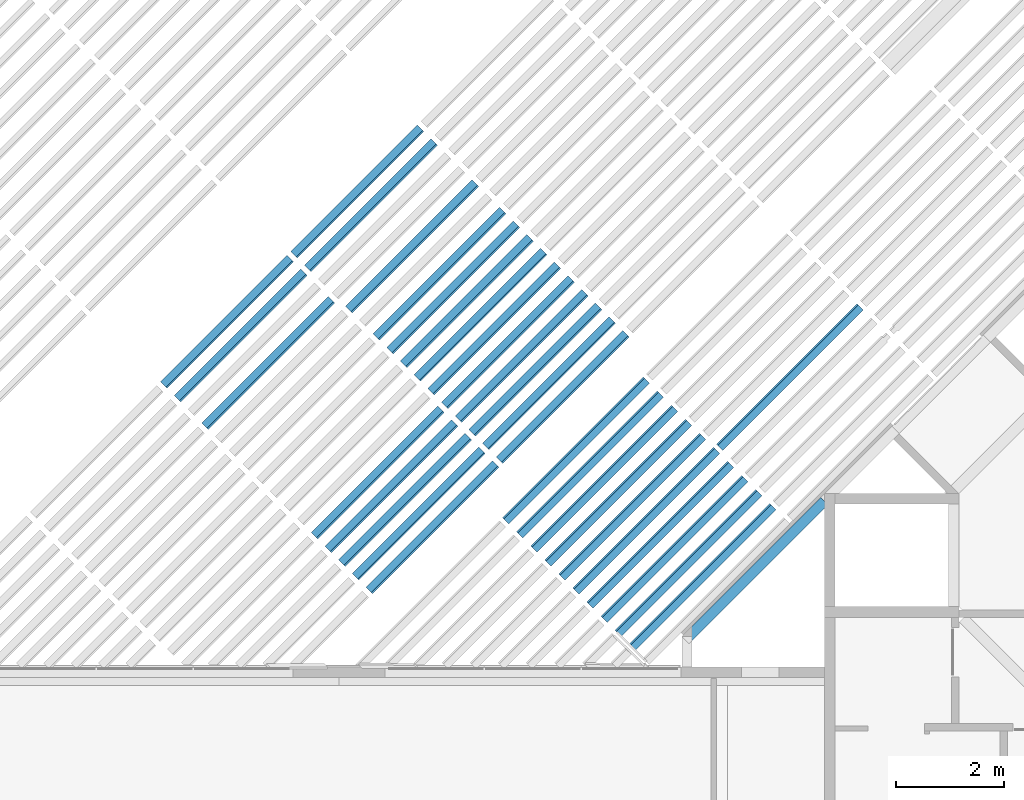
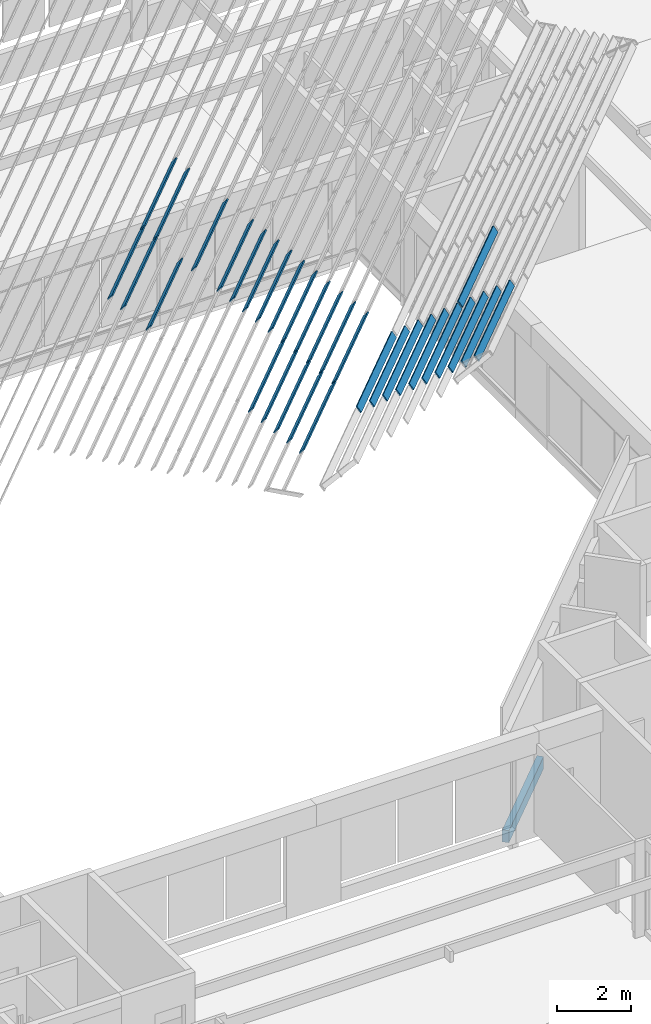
# One storey, part 5 of 37: 33 beams.
"""IFC4X3_ADD2 building model written with IfcOpenShell, lengths in millimetres."""

from ifc_helpers import new_model, si_unit, direction, frame, frame_2d, origin_with_axes, origin_2d_with_axis, place, context, subcontext, project, spatial, rectangle, extrude, source, transform, mapped, material, type_object, type_shapes, element, save


model = new_model("IFC4X3_ADD2")

# Units and contexts
model_context = context("Model", 3, precision=1e-05, world=origin_with_axes(), true_north=direction((0.0, 1.0)))
body_context = subcontext(model_context, "Body", "Model", "MODEL_VIEW")
ifc_project = project(units=[si_unit("LENGTHUNIT", "METRE", prefix="MILLI"), si_unit("AREAUNIT", "SQUARE_METRE"), si_unit("VOLUMEUNIT", "CUBIC_METRE"), si_unit("PLANEANGLEUNIT", "RADIAN"), si_unit("TIMEUNIT", "SECOND"), si_unit("MASSUNIT", "GRAM")], contexts=[model_context])

# Site, building, storey
site_placement = place(None, origin_with_axes())
site = spatial("IfcSite", under=ifc_project, at=site_placement, Name="Site", CompositionType="ELEMENT")
building_placement = place(site_placement, origin_with_axes())
building = spatial("IfcBuilding", under=site, at=building_placement, Name="IFC Building Story")
storey_placement = place(building_placement, frame((0.0, 0.0, 3600.0), z_axis=(0.0, 0.0, 1.0), x_axis=(1.0, 0.0, 0.0)))
storey = spatial("IfcBuildingStorey", under=building, at=storey_placement, Name="010", Elevation=3600.0)

# Beams
ifc_material_1 = material(Name="GVH_i2_naaldhout_generiek")
beam_type_1 = type_object("IfcBeamType", Name="28_SF_hout_rechthoekig_40 x 230_305", PredefinedType="NOTDEFINED")
shared_shape_1 = source(origin_with_axes(), body_context, "Body", "SweptSolid", [
    extrude(rectangle(XDim=3315.44000000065, YDim=40.0000000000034, at=origin_2d_with_axis()), frame((-37.72367612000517, 0.0, -115.0), z_axis=(0.0, 0.0, 1.0), x_axis=(1.0, 0.0, 0.0)), (0.0, 0.0, 1.0), 229.999999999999),
])
type_shapes(beam_type_1, [shared_shape_1])
beam_1_placement = place(storey_placement, frame((-27394.6255278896, 15260.6731626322, 13865.1625326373), z_axis=(0.4307932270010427, -0.4307932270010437, 0.7929907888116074), x_axis=(-0.7071067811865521, -0.707106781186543, 0.0)))
element("IfcBeam", 1, at=beam_1_placement, inside=storey, type_object=beam_type_1, material=ifc_material_1, Name="28_SF_hout_rechthoekig:40 x 230", ObjectType="40 x 230", PredefinedType="BEAM", context=body_context, shape_type="MappedRepresentation", body=[
    mapped(shared_shape_1, transform((0.0, 0.0, 0.0))),
])
beam_type_2 = type_object("IfcBeamType", Name="28_SF_hout_rechthoekig_40 x 230_307", PredefinedType="NOTDEFINED")
shared_shape_2 = source(origin_with_axes(), body_context, "Body", "SweptSolid", [
    extrude(rectangle(XDim=3315.44000000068, YDim=40.0000000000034, at=origin_2d_with_axis()), frame((-37.72362505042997, 0.0, -115.0), z_axis=(0.0, 0.0, 1.0), x_axis=(1.0, 0.0, 0.0)), (0.0, 0.0, 1.0), 229.999999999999),
])
type_shapes(beam_type_2, [shared_shape_2])
beam_2_placement = place(storey_placement, frame((-27648.6358392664, 15514.683474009, 14141.1453644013), z_axis=(0.4307932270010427, -0.4307932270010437, 0.7929907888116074), x_axis=(-0.7071067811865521, -0.707106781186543, 0.0)))
element("IfcBeam", 2, at=beam_2_placement, inside=storey, type_object=beam_type_2, material=ifc_material_1, Name="28_SF_hout_rechthoekig:40 x 230", ObjectType="40 x 230", PredefinedType="BEAM", context=body_context, shape_type="MappedRepresentation", body=[
    mapped(shared_shape_2, transform((0.0, 0.0, 0.0))),
])
beam_type_3 = type_object("IfcBeamType", Name="28_SF_hout_rechthoekig_40 x 230_309", PredefinedType="NOTDEFINED")
shared_shape_3 = source(origin_with_axes(), body_context, "Body", "SweptSolid", [
    extrude(rectangle(XDim=3315.44000000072, YDim=40.0000000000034, at=origin_2d_with_axis()), frame((-37.72357398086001, 0.0, -115.0), z_axis=(0.0, 0.0, 1.0), x_axis=(1.0, 0.0, 0.0)), (0.0, 0.0, 1.0), 229.999999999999),
])
type_shapes(beam_type_3, [shared_shape_3])
beam_3_placement = place(storey_placement, frame((-27902.6461506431, 15768.6937853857, 14417.1281961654), z_axis=(0.4307932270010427, -0.4307932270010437, 0.7929907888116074), x_axis=(-0.7071067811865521, -0.707106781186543, 0.0)))
element("IfcBeam", 3, at=beam_3_placement, inside=storey, type_object=beam_type_3, material=ifc_material_1, Name="28_SF_hout_rechthoekig:40 x 230", ObjectType="40 x 230", PredefinedType="BEAM", context=body_context, shape_type="MappedRepresentation", body=[
    mapped(shared_shape_3, transform((0.0, 0.0, 0.0))),
])
beam_type_4 = type_object("IfcBeamType", Name="28_SF_hout_rechthoekig_40 x 230_311", PredefinedType="NOTDEFINED")
shared_shape_4 = source(origin_with_axes(), body_context, "Body", "SweptSolid", [
    extrude(rectangle(XDim=3315.44000000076, YDim=40.0000000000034, at=origin_2d_with_axis()), frame((-37.72352291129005, 0.0, -115.0), z_axis=(0.0, 0.0, 1.0), x_axis=(1.0, 0.0, 0.0)), (0.0, 0.0, 1.0), 229.999999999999),
])
type_shapes(beam_type_4, [shared_shape_4])
beam_4_placement = place(storey_placement, frame((-28156.6564620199, 16022.7040967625, 14693.1110279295), z_axis=(0.4307932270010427, -0.4307932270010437, 0.7929907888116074), x_axis=(-0.7071067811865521, -0.707106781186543, 0.0)))
element("IfcBeam", 4, at=beam_4_placement, inside=storey, type_object=beam_type_4, material=ifc_material_1, Name="28_SF_hout_rechthoekig:40 x 230", ObjectType="40 x 230", PredefinedType="BEAM", context=body_context, shape_type="MappedRepresentation", body=[
    mapped(shared_shape_4, transform((0.0, 0.0, 0.0))),
])
beam_type_5 = type_object("IfcBeamType", Name="28_SF_hout_rechthoekig_40 x 230_313", PredefinedType="NOTDEFINED")
shared_shape_5 = source(origin_with_axes(), body_context, "Body", "SweptSolid", [
    extrude(rectangle(XDim=3315.44000000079, YDim=40.0000000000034, at=origin_2d_with_axis()), frame((-37.72347184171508, 0.0, -115.0), z_axis=(0.0, 0.0, 1.0), x_axis=(1.0, 0.0, 0.0)), (0.0, 0.0, 1.0), 229.999999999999),
])
type_shapes(beam_type_5, [shared_shape_5])
beam_5_placement = place(storey_placement, frame((-28410.6667733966, 16276.7144081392, 14969.0938596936), z_axis=(0.4307932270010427, -0.4307932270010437, 0.7929907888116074), x_axis=(-0.7071067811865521, -0.707106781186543, 0.0)))
element("IfcBeam", 5, at=beam_5_placement, inside=storey, type_object=beam_type_5, material=ifc_material_1, Name="28_SF_hout_rechthoekig:40 x 230", ObjectType="40 x 230", PredefinedType="BEAM", context=body_context, shape_type="MappedRepresentation", body=[
    mapped(shared_shape_5, transform((0.0, 0.0, 0.0))),
])
beam_type_6 = type_object("IfcBeamType", Name="28_SF_hout_rechthoekig_40 x 230_329", PredefinedType="NOTDEFINED")
shared_shape_6 = source(origin_with_axes(), body_context, "Body", "SweptSolid", [
    extrude(rectangle(XDim=3315.44000000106, YDim=40.0000000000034, at=origin_2d_with_axis()), frame((-37.72306328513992, 0.0, -115.0), z_axis=(0.0, 0.0, 1.0), x_axis=(1.0, 0.0, 0.0)), (0.0, 0.0, 1.0), 229.999999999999),
])
type_shapes(beam_type_6, [shared_shape_6])
beam_6_placement = place(storey_placement, frame((-30442.7492644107, 18308.7968991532, 17176.9565138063), z_axis=(0.4307932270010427, -0.4307932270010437, 0.7929907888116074), x_axis=(-0.7071067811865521, -0.707106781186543, 0.0)))
element("IfcBeam", 6, at=beam_6_placement, inside=storey, type_object=beam_type_6, material=ifc_material_1, Name="28_SF_hout_rechthoekig:40 x 230", ObjectType="40 x 230", PredefinedType="BEAM", context=body_context, shape_type="MappedRepresentation", body=[
    mapped(shared_shape_6, transform((0.0, 0.0, 0.0))),
])
beam_type_7 = type_object("IfcBeamType", Name="28_SF_hout_rechthoekig_40 x 230_333", PredefinedType="NOTDEFINED")
shared_shape_7 = source(origin_with_axes(), body_context, "Body", "SweptSolid", [
    extrude(rectangle(XDim=3315.44000000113, YDim=40.0000000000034, at=origin_2d_with_axis()), frame((-37.72296114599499, 0.0, -115.0), z_axis=(0.0, 0.0, 1.0), x_axis=(1.0, 0.0, 0.0)), (0.0, 0.0, 1.0), 229.9999999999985),
])
type_shapes(beam_type_7, [shared_shape_7])
beam_7_placement = place(storey_placement, frame((-30950.7698871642, 18816.8175219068, 17728.9221773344), z_axis=(0.4307932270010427, -0.4307932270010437, 0.7929907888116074), x_axis=(-0.7071067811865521, -0.707106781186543, 0.0)))
element("IfcBeam", 7, at=beam_7_placement, inside=storey, type_object=beam_type_7, material=ifc_material_1, Name="28_SF_hout_rechthoekig:40 x 230", ObjectType="40 x 230", PredefinedType="BEAM", context=body_context, shape_type="MappedRepresentation", body=[
    mapped(shared_shape_7, transform((0.0, 0.0, 0.0))),
])
beam_type_8 = type_object("IfcBeamType", Name="28_SF_hout_rechthoekig_40 x 230_335", PredefinedType="NOTDEFINED")
shared_shape_8 = source(origin_with_axes(), body_context, "Body", "SweptSolid", [
    extrude(rectangle(XDim=3315.44000000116, YDim=40.0000000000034, at=origin_2d_with_axis()), frame((-37.72291007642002, 0.0, -115.0), z_axis=(0.0, 0.0, 1.0), x_axis=(1.0, 0.0, 0.0)), (0.0, 0.0, 1.0), 229.9999999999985),
])
type_shapes(beam_type_8, [shared_shape_8])
beam_8_placement = place(storey_placement, frame((-31204.7801985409, 19070.8278332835, 18004.9050090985), z_axis=(0.4307932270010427, -0.4307932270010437, 0.7929907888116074), x_axis=(-0.7071067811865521, -0.707106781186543, 0.0)))
element("IfcBeam", 8, at=beam_8_placement, inside=storey, type_object=beam_type_8, material=ifc_material_1, Name="28_SF_hout_rechthoekig:40 x 230", ObjectType="40 x 230", PredefinedType="BEAM", context=body_context, shape_type="MappedRepresentation", body=[
    mapped(shared_shape_8, transform((0.0, 0.0, 0.0))),
])
beam_type_9 = type_object("IfcBeamType", Name="28_SF_hout_rechthoekig_40 x 230_337", PredefinedType="NOTDEFINED")
shared_shape_9 = source(origin_with_axes(), body_context, "Body", "SweptSolid", [
    extrude(rectangle(XDim=3317.27999998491, YDim=40.0000000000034, at=origin_2d_with_axis()), frame((-38.64351686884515, 0.0, -115.0), z_axis=(0.0, 0.0, 1.0), x_axis=(1.0, 0.0, 0.0)), (0.0, 0.0, 1.0), 229.999999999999),
])
type_shapes(beam_type_9, [shared_shape_9])
beam_9_placement = place(storey_placement, frame((-24979.5446305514, 17675.7540599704, 13865.1625326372), z_axis=(0.4307932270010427, -0.4307932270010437, 0.7929907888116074), x_axis=(-0.7071067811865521, -0.707106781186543, 0.0)))
element("IfcBeam", 9, at=beam_9_placement, inside=storey, type_object=beam_type_9, material=ifc_material_1, Name="28_SF_hout_rechthoekig:40 x 230", ObjectType="40 x 230", PredefinedType="BEAM", context=body_context, shape_type="MappedRepresentation", body=[
    mapped(shared_shape_9, transform((0.0, 0.0, 0.0))),
])
beam_type_10 = type_object("IfcBeamType", Name="28_SF_hout_rechthoekig_40 x 230_339", PredefinedType="NOTDEFINED")
shared_shape_10 = source(origin_with_axes(), body_context, "Body", "SweptSolid", [
    extrude(rectangle(XDim=3317.279999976, YDim=40.0000000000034, at=origin_2d_with_axis()), frame((-38.64346579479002, 0.0, -115.0), z_axis=(0.0, 0.0, 1.0), x_axis=(1.0, 0.0, 0.0)), (0.0, 0.0, 1.0), 229.999999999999),
])
type_shapes(beam_type_10, [shared_shape_10])
beam_10_placement = place(storey_placement, frame((-25233.5549419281, 17929.7643713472, 14141.1453644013), z_axis=(0.4307932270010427, -0.4307932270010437, 0.7929907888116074), x_axis=(-0.7071067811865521, -0.707106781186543, 0.0)))
element("IfcBeam", 10, at=beam_10_placement, inside=storey, type_object=beam_type_10, material=ifc_material_1, Name="28_SF_hout_rechthoekig:40 x 230", ObjectType="40 x 230", PredefinedType="BEAM", context=body_context, shape_type="MappedRepresentation", body=[
    mapped(shared_shape_10, transform((0.0, 0.0, 0.0))),
])
beam_type_11 = type_object("IfcBeamType", Name="28_SF_hout_rechthoekig_40 x 230_341", PredefinedType="NOTDEFINED")
shared_shape_11 = source(origin_with_axes(), body_context, "Body", "SweptSolid", [
    extrude(rectangle(XDim=3317.27999996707, YDim=40.0000000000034, at=origin_2d_with_axis()), frame((-38.64341472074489, 0.0, -115.0), z_axis=(0.0, 0.0, 1.0), x_axis=(1.0, 0.0, 0.0)), (0.0, 0.0, 1.0), 229.999999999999),
])
type_shapes(beam_type_11, [shared_shape_11])
beam_11_placement = place(storey_placement, frame((-25487.5652533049, 18183.7746827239, 14417.1281961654), z_axis=(0.4307932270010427, -0.4307932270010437, 0.7929907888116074), x_axis=(-0.7071067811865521, -0.707106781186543, 0.0)))
element("IfcBeam", 11, at=beam_11_placement, inside=storey, type_object=beam_type_11, material=ifc_material_1, Name="28_SF_hout_rechthoekig:40 x 230", ObjectType="40 x 230", PredefinedType="BEAM", context=body_context, shape_type="MappedRepresentation", body=[
    mapped(shared_shape_11, transform((0.0, 0.0, 0.0))),
])
beam_type_12 = type_object("IfcBeamType", Name="28_SF_hout_rechthoekig_40 x 230_343", PredefinedType="NOTDEFINED")
shared_shape_12 = source(origin_with_axes(), body_context, "Body", "SweptSolid", [
    extrude(rectangle(XDim=3317.27999995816, YDim=40.0000000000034, at=origin_2d_with_axis()), frame((-38.64336364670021, 0.0, -115.0), z_axis=(0.0, 0.0, 1.0), x_axis=(1.0, 0.0, 0.0)), (0.0, 0.0, 1.0), 229.9999999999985),
])
type_shapes(beam_type_12, [shared_shape_12])
beam_12_placement = place(storey_placement, frame((-25741.5755646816, 18437.7849941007, 14693.1110279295), z_axis=(0.4307932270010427, -0.4307932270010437, 0.7929907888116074), x_axis=(-0.7071067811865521, -0.707106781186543, 0.0)))
element("IfcBeam", 12, at=beam_12_placement, inside=storey, type_object=beam_type_12, material=ifc_material_1, Name="28_SF_hout_rechthoekig:40 x 230", ObjectType="40 x 230", PredefinedType="BEAM", context=body_context, shape_type="MappedRepresentation", body=[
    mapped(shared_shape_12, transform((0.0, 0.0, 0.0))),
])
beam_type_13 = type_object("IfcBeamType", Name="28_SF_hout_rechthoekig_40 x 230_345", PredefinedType="NOTDEFINED")
shared_shape_13 = source(origin_with_axes(), body_context, "Body", "SweptSolid", [
    extrude(rectangle(XDim=3317.27999994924, YDim=40.0000000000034, at=origin_2d_with_axis()), frame((-38.64331257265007, 0.0, -115.0), z_axis=(0.0, 0.0, 1.0), x_axis=(1.0, 0.0, 0.0)), (0.0, 0.0, 1.0), 229.9999999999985),
])
type_shapes(beam_type_13, [shared_shape_13])
beam_13_placement = place(storey_placement, frame((-25995.5858760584, 18691.7953054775, 14969.0938596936), z_axis=(0.4307932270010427, -0.4307932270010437, 0.7929907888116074), x_axis=(-0.7071067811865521, -0.707106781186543, 0.0)))
element("IfcBeam", 13, at=beam_13_placement, inside=storey, type_object=beam_type_13, material=ifc_material_1, Name="28_SF_hout_rechthoekig:40 x 230", ObjectType="40 x 230", PredefinedType="BEAM", context=body_context, shape_type="MappedRepresentation", body=[
    mapped(shared_shape_13, transform((0.0, 0.0, 0.0))),
])
beam_type_14 = type_object("IfcBeamType", Name="28_SF_hout_rechthoekig_40 x 230_347", PredefinedType="NOTDEFINED")
shared_shape_14 = source(origin_with_axes(), body_context, "Body", "SweptSolid", [
    extrude(rectangle(XDim=3317.27999994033, YDim=40.0000000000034, at=origin_2d_with_axis()), frame((-38.64326149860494, 0.0, -115.0), z_axis=(0.0, 0.0, 1.0), x_axis=(1.0, 0.0, 0.0)), (0.0, 0.0, 1.0), 229.9999999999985),
])
type_shapes(beam_type_14, [shared_shape_14])
beam_14_placement = place(storey_placement, frame((-26249.5961874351, 18945.8056168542, 15245.0766914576), z_axis=(0.4307932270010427, -0.4307932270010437, 0.7929907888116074), x_axis=(-0.7071067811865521, -0.707106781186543, 0.0)))
element("IfcBeam", 14, at=beam_14_placement, inside=storey, type_object=beam_type_14, material=ifc_material_1, Name="28_SF_hout_rechthoekig:40 x 230", ObjectType="40 x 230", PredefinedType="BEAM", context=body_context, shape_type="MappedRepresentation", body=[
    mapped(shared_shape_14, transform((0.0, 0.0, 0.0))),
])
beam_type_15 = type_object("IfcBeamType", Name="28_SF_hout_rechthoekig_40 x 230_349", PredefinedType="NOTDEFINED")
shared_shape_15 = source(origin_with_axes(), body_context, "Body", "SweptSolid", [
    extrude(rectangle(XDim=3317.27999993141, YDim=40.0000000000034, at=origin_2d_with_axis()), frame((-38.64321042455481, 0.0, -115.0), z_axis=(0.0, 0.0, 1.0), x_axis=(1.0, 0.0, 0.0)), (0.0, 0.0, 1.0), 229.9999999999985),
])
type_shapes(beam_type_15, [shared_shape_15])
beam_15_placement = place(storey_placement, frame((-26503.6064988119, 19199.815928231, 15521.0595232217), z_axis=(0.4307932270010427, -0.4307932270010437, 0.7929907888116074), x_axis=(-0.7071067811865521, -0.707106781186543, 0.0)))
element("IfcBeam", 15, at=beam_15_placement, inside=storey, type_object=beam_type_15, material=ifc_material_1, Name="28_SF_hout_rechthoekig:40 x 230", ObjectType="40 x 230", PredefinedType="BEAM", context=body_context, shape_type="MappedRepresentation", body=[
    mapped(shared_shape_15, transform((0.0, 0.0, 0.0))),
])
beam_type_16 = type_object("IfcBeamType", Name="28_SF_hout_rechthoekig_40 x 230_351", PredefinedType="NOTDEFINED")
shared_shape_16 = source(origin_with_axes(), body_context, "Body", "SweptSolid", [
    extrude(rectangle(XDim=3317.27999992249, YDim=40.0000000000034, at=origin_2d_with_axis()), frame((-38.64315935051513, 0.0, -115.0), z_axis=(0.0, 0.0, 1.0), x_axis=(1.0, 0.0, 0.0)), (0.0, 0.0, 1.0), 229.9999999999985),
])
type_shapes(beam_type_16, [shared_shape_16])
beam_16_placement = place(storey_placement, frame((-26757.6168101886, 19453.8262396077, 15797.0423549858), z_axis=(0.4307932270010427, -0.4307932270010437, 0.7929907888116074), x_axis=(-0.7071067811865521, -0.707106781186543, 0.0)))
element("IfcBeam", 16, at=beam_16_placement, inside=storey, type_object=beam_type_16, material=ifc_material_1, Name="28_SF_hout_rechthoekig:40 x 230", ObjectType="40 x 230", PredefinedType="BEAM", context=body_context, shape_type="MappedRepresentation", body=[
    mapped(shared_shape_16, transform((0.0, 0.0, 0.0))),
])
beam_type_17 = type_object("IfcBeamType", Name="28_SF_hout_rechthoekig_40 x 230_353", PredefinedType="NOTDEFINED")
shared_shape_17 = source(origin_with_axes(), body_context, "Body", "SweptSolid", [
    extrude(rectangle(XDim=3317.27999991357, YDim=40.0000000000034, at=origin_2d_with_axis()), frame((-38.643108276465, 0.0, -115.0), z_axis=(0.0, 0.0, 1.0), x_axis=(1.0, 0.0, 0.0)), (0.0, 0.0, 1.0), 229.9999999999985),
])
type_shapes(beam_type_17, [shared_shape_17])
beam_17_placement = place(storey_placement, frame((-27011.6271215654, 19707.8365509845, 16073.0251867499), z_axis=(0.4307932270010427, -0.4307932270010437, 0.7929907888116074), x_axis=(-0.7071067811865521, -0.707106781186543, 0.0)))
element("IfcBeam", 17, at=beam_17_placement, inside=storey, type_object=beam_type_17, material=ifc_material_1, Name="28_SF_hout_rechthoekig:40 x 230", ObjectType="40 x 230", PredefinedType="BEAM", context=body_context, shape_type="MappedRepresentation", body=[
    mapped(shared_shape_17, transform((0.0, 0.0, 0.0))),
])
beam_type_18 = type_object("IfcBeamType", Name="28_SF_hout_rechthoekig_40 x 230_355", PredefinedType="NOTDEFINED")
shared_shape_18 = source(origin_with_axes(), body_context, "Body", "SweptSolid", [
    extrude(rectangle(XDim=3317.27999990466, YDim=40.0000000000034, at=origin_2d_with_axis()), frame((-38.64305720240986, 0.0, -115.0), z_axis=(0.0, 0.0, 1.0), x_axis=(1.0, 0.0, 0.0)), (0.0, 0.0, 1.0), 229.9999999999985),
])
type_shapes(beam_type_18, [shared_shape_18])
beam_18_placement = place(storey_placement, frame((-27265.6374329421, 19961.8468623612, 16349.008018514), z_axis=(0.4307932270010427, -0.4307932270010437, 0.7929907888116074), x_axis=(-0.7071067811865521, -0.707106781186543, 0.0)))
element("IfcBeam", 18, at=beam_18_placement, inside=storey, type_object=beam_type_18, material=ifc_material_1, Name="28_SF_hout_rechthoekig:40 x 230", ObjectType="40 x 230", PredefinedType="BEAM", context=body_context, shape_type="MappedRepresentation", body=[
    mapped(shared_shape_18, transform((0.0, 0.0, 0.0))),
])
beam_type_19 = type_object("IfcBeamType", Name="28_SF_hout_rechthoekig_40 x 230_359", PredefinedType="NOTDEFINED")
shared_shape_19 = source(origin_with_axes(), body_context, "Body", "SweptSolid", [
    extrude(rectangle(XDim=3317.27999988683, YDim=40.0000000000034, at=origin_2d_with_axis()), frame((-38.64295505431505, 0.0, -115.0), z_axis=(0.0, 0.0, 1.0), x_axis=(1.0, 0.0, 0.0)), (0.0, 0.0, 1.0), 229.9999999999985),
])
type_shapes(beam_type_19, [shared_shape_19])
beam_19_placement = place(storey_placement, frame((-27773.6580556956, 20469.8674851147, 16900.9736820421), z_axis=(0.4307932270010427, -0.4307932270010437, 0.7929907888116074), x_axis=(-0.7071067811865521, -0.707106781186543, 0.0)))
element("IfcBeam", 19, at=beam_19_placement, inside=storey, type_object=beam_type_19, material=ifc_material_1, Name="28_SF_hout_rechthoekig:40 x 230", ObjectType="40 x 230", PredefinedType="BEAM", context=body_context, shape_type="MappedRepresentation", body=[
    mapped(shared_shape_19, transform((0.0, 0.0, 0.0))),
])
beam_type_20 = type_object("IfcBeamType", Name="28_SF_hout_rechthoekig_40 x 230_365", PredefinedType="NOTDEFINED")
shared_shape_20 = source(origin_with_axes(), body_context, "Body", "SweptSolid", [
    extrude(rectangle(XDim=3317.27999986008, YDim=40.0000000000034, at=origin_2d_with_axis()), frame((-38.64280183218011, 0.0, -115.0), z_axis=(0.0, 0.0, 1.0), x_axis=(1.0, 0.0, 0.0)), (0.0, 0.0, 1.0), 229.999999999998),
])
type_shapes(beam_type_20, [shared_shape_20])
beam_20_placement = place(storey_placement, frame((-28535.6889898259, 21231.898419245, 17728.9221773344), z_axis=(0.4307932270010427, -0.4307932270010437, 0.7929907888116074), x_axis=(-0.7071067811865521, -0.707106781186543, 0.0)))
element("IfcBeam", 20, at=beam_20_placement, inside=storey, type_object=beam_type_20, material=ifc_material_1, Name="28_SF_hout_rechthoekig:40 x 230", ObjectType="40 x 230", PredefinedType="BEAM", context=body_context, shape_type="MappedRepresentation", body=[
    mapped(shared_shape_20, transform((0.0, 0.0, 0.0))),
])
beam_type_21 = type_object("IfcBeamType", Name="28_SF_hout_rechthoekig_40 x 230_367", PredefinedType="NOTDEFINED")
shared_shape_21 = source(origin_with_axes(), body_context, "Body", "SweptSolid", [
    extrude(rectangle(XDim=3317.27999985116, YDim=40.0000000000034, at=origin_2d_with_axis()), frame((-38.64275075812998, 0.0, -115.0), z_axis=(0.0, 0.0, 1.0), x_axis=(1.0, 0.0, 0.0)), (0.0, 0.0, 1.0), 229.999999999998),
])
type_shapes(beam_type_21, [shared_shape_21])
beam_21_placement = place(storey_placement, frame((-28789.6993012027, 21485.9087306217, 18004.9050090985), z_axis=(0.4307932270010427, -0.4307932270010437, 0.7929907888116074), x_axis=(-0.7071067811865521, -0.707106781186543, 0.0)))
element("IfcBeam", 21, at=beam_21_placement, inside=storey, type_object=beam_type_21, material=ifc_material_1, Name="28_SF_hout_rechthoekig:40 x 230", ObjectType="40 x 230", PredefinedType="BEAM", context=body_context, shape_type="MappedRepresentation", body=[
    mapped(shared_shape_21, transform((0.0, 0.0, 0.0))),
])
beam_type_22 = type_object("IfcBeamType", Name="28_SF_hout_rechthoekig_40 x 230_599", PredefinedType="NOTDEFINED")
shared_shape_22 = source(origin_with_axes(), body_context, "Body", "SweptSolid", [
    extrude(rectangle(XDim=3690.13999998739, YDim=40.0000000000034, at=origin_2d_with_axis()), frame((130.704422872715, 0.0, -115.0), z_axis=(0.0, 0.0, 1.0), x_axis=(1.0, 0.0, 0.0)), (0.0, 0.0, 1.0), 230.0),
])
type_shapes(beam_type_22, [shared_shape_22])
beam_22_placement = place(storey_placement, frame((-24799.9655093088, 16617.4421276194, 13583.9665129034), z_axis=(-0.4034072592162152, 0.4034072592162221, 0.8212948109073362), x_axis=(0.7071067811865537, 0.7071067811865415, 0.0)))
element("IfcBeam", 22, at=beam_22_placement, inside=storey, type_object=beam_type_22, material=ifc_material_1, Name="28_SF_hout_rechthoekig:40 x 230", ObjectType="40 x 230", PredefinedType="BEAM", context=body_context, shape_type="MappedRepresentation", body=[
    mapped(shared_shape_22, transform((0.0, 0.0, 0.0))),
])
beam_type_23 = type_object("IfcBeamType", Name="28_SF_hout_rechthoekig_40 x 230_601", PredefinedType="NOTDEFINED")
shared_shape_23 = source(origin_with_axes(), body_context, "Body", "SweptSolid", [
    extrude(rectangle(XDim=3690.1399999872, YDim=40.0000000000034, at=origin_2d_with_axis()), frame((130.7038533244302, 0.0, -115.0), z_axis=(0.0, 0.0, 1.0), x_axis=(1.0, 0.0, 0.0)), (0.0, 0.0, 1.0), 229.9999999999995),
])
type_shapes(beam_type_23, [shared_shape_23])
beam_23_placement = place(storey_placement, frame((-24539.2118439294, 16356.6884622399, 13840.1228165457), z_axis=(-0.4034072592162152, 0.4034072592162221, 0.8212948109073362), x_axis=(0.7071067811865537, 0.7071067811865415, 0.0)))
element("IfcBeam", 23, at=beam_23_placement, inside=storey, type_object=beam_type_23, material=ifc_material_1, Name="28_SF_hout_rechthoekig:40 x 230", ObjectType="40 x 230", PredefinedType="BEAM", context=body_context, shape_type="MappedRepresentation", body=[
    mapped(shared_shape_23, transform((0.0, 0.0, 0.0))),
])
beam_type_24 = type_object("IfcBeamType", Name="28_SF_hout_rechthoekig_40 x 230_603", PredefinedType="NOTDEFINED")
shared_shape_24 = source(origin_with_axes(), body_context, "Body", "SweptSolid", [
    extrude(rectangle(XDim=3690.13999998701, YDim=40.0000000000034, at=origin_2d_with_axis()), frame((130.703283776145, 0.0, -115.0), z_axis=(0.0, 0.0, 1.0), x_axis=(1.0, 0.0, 0.0)), (0.0, 0.0, 1.0), 230.0),
])
type_shapes(beam_type_24, [shared_shape_24])
beam_24_placement = place(storey_placement, frame((-24278.4581785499, 16095.9347968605, 14096.279120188), z_axis=(-0.4034072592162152, 0.4034072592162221, 0.8212948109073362), x_axis=(0.7071067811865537, 0.7071067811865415, 0.0)))
element("IfcBeam", 24, at=beam_24_placement, inside=storey, type_object=beam_type_24, material=ifc_material_1, Name="28_SF_hout_rechthoekig:40 x 230", ObjectType="40 x 230", PredefinedType="BEAM", context=body_context, shape_type="MappedRepresentation", body=[
    mapped(shared_shape_24, transform((0.0, 0.0, 0.0))),
])
beam_type_25 = type_object("IfcBeamType", Name="28_SF_hout_rechthoekig_40 x 230_605", PredefinedType="NOTDEFINED")
shared_shape_25 = source(origin_with_axes(), body_context, "Body", "SweptSolid", [
    extrude(rectangle(XDim=3690.13999998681, YDim=40.0000000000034, at=origin_2d_with_axis()), frame((130.7027142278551, 0.0, -115.0), z_axis=(0.0, 0.0, 1.0), x_axis=(1.0, 0.0, 0.0)), (0.0, 0.0, 1.0), 229.9999999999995),
])
type_shapes(beam_type_25, [shared_shape_25])
beam_25_placement = place(storey_placement, frame((-24017.7045131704, 15835.181131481, 14352.4354238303), z_axis=(-0.4034072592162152, 0.4034072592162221, 0.8212948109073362), x_axis=(0.7071067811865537, 0.7071067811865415, 0.0)))
element("IfcBeam", 25, at=beam_25_placement, inside=storey, type_object=beam_type_25, material=ifc_material_1, Name="28_SF_hout_rechthoekig:40 x 230", ObjectType="40 x 230", PredefinedType="BEAM", context=body_context, shape_type="MappedRepresentation", body=[
    mapped(shared_shape_25, transform((0.0, 0.0, 0.0))),
])
beam_type_26 = type_object("IfcBeamType", Name="28_SF_hout_rechthoekig_40 x 230_607", PredefinedType="NOTDEFINED")
shared_shape_26 = source(origin_with_axes(), body_context, "Body", "SweptSolid", [
    extrude(rectangle(XDim=3690.13999998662, YDim=40.0000000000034, at=origin_2d_with_axis()), frame((130.7021446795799, 0.0, -115.0), z_axis=(0.0, 0.0, 1.0), x_axis=(1.0, 0.0, 0.0)), (0.0, 0.0, 1.0), 230.0),
])
type_shapes(beam_type_26, [shared_shape_26])
beam_26_placement = place(storey_placement, frame((-23756.950847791, 15574.4274661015, 14608.5917274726), z_axis=(-0.4034072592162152, 0.4034072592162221, 0.8212948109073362), x_axis=(0.7071067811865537, 0.7071067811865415, 0.0)))
element("IfcBeam", 26, at=beam_26_placement, inside=storey, type_object=beam_type_26, material=ifc_material_1, Name="28_SF_hout_rechthoekig:40 x 230", ObjectType="40 x 230", PredefinedType="BEAM", context=body_context, shape_type="MappedRepresentation", body=[
    mapped(shared_shape_26, transform((0.0, 0.0, 0.0))),
])
beam_type_27 = type_object("IfcBeamType", Name="28_SF_hout_rechthoekig_40 x 230_609", PredefinedType="NOTDEFINED")
shared_shape_27 = source(origin_with_axes(), body_context, "Body", "SweptSolid", [
    extrude(rectangle(XDim=3690.13999998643, YDim=40.0000000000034, at=origin_2d_with_axis()), frame((130.7015751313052, 0.0, -115.0), z_axis=(0.0, 0.0, 1.0), x_axis=(1.0, 0.0, 0.0)), (0.0, 0.0, 1.0), 230.0),
])
type_shapes(beam_type_27, [shared_shape_27])
beam_27_placement = place(storey_placement, frame((-23496.1971824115, 15313.6738007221, 14864.7480311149), z_axis=(-0.4034072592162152, 0.4034072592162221, 0.8212948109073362), x_axis=(0.7071067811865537, 0.7071067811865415, 0.0)))
element("IfcBeam", 27, at=beam_27_placement, inside=storey, type_object=beam_type_27, material=ifc_material_1, Name="28_SF_hout_rechthoekig:40 x 230", ObjectType="40 x 230", PredefinedType="BEAM", context=body_context, shape_type="MappedRepresentation", body=[
    mapped(shared_shape_27, transform((0.0, 0.0, 0.0))),
])
beam_type_28 = type_object("IfcBeamType", Name="28_SF_hout_rechthoekig_40 x 230_611", PredefinedType="NOTDEFINED")
shared_shape_28 = source(origin_with_axes(), body_context, "Body", "SweptSolid", [
    extrude(rectangle(XDim=3690.13999998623, YDim=40.0000000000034, at=origin_2d_with_axis()), frame((130.701005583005, 0.0, -115.0), z_axis=(0.0, 0.0, 1.0), x_axis=(1.0, 0.0, 0.0)), (0.0, 0.0, 1.0), 230.0),
])
type_shapes(beam_type_28, [shared_shape_28])
beam_28_placement = place(storey_placement, frame((-23235.4435170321, 15052.9201353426, 15120.9043347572), z_axis=(-0.4034072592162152, 0.4034072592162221, 0.8212948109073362), x_axis=(0.7071067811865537, 0.7071067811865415, 0.0)))
element("IfcBeam", 28, at=beam_28_placement, inside=storey, type_object=beam_type_28, material=ifc_material_1, Name="28_SF_hout_rechthoekig:40 x 230", ObjectType="40 x 230", PredefinedType="BEAM", context=body_context, shape_type="MappedRepresentation", body=[
    mapped(shared_shape_28, transform((0.0, 0.0, 0.0))),
])
beam_type_29 = type_object("IfcBeamType", Name="28_SF_hout_rechthoekig_40 x 230_613", PredefinedType="NOTDEFINED")
shared_shape_29 = source(origin_with_axes(), body_context, "Body", "SweptSolid", [
    extrude(rectangle(XDim=3690.13999998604, YDim=40.0000000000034, at=origin_2d_with_axis()), frame((130.7004360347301, 0.0, -115.0), z_axis=(0.0, 0.0, 1.0), x_axis=(1.0, 0.0, 0.0)), (0.0, 0.0, 1.0), 230.0),
])
type_shapes(beam_type_29, [shared_shape_29])
beam_29_placement = place(storey_placement, frame((-22974.6898516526, 14792.1664699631, 15377.0606383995), z_axis=(-0.4034072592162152, 0.4034072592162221, 0.8212948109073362), x_axis=(0.7071067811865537, 0.7071067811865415, 0.0)))
element("IfcBeam", 29, at=beam_29_placement, inside=storey, type_object=beam_type_29, material=ifc_material_1, Name="28_SF_hout_rechthoekig:40 x 230", ObjectType="40 x 230", PredefinedType="BEAM", context=body_context, shape_type="MappedRepresentation", body=[
    mapped(shared_shape_29, transform((0.0, 0.0, 0.0))),
])
beam_type_30 = type_object("IfcBeamType", Name="28_SF_hout_rechthoekig_40 x 230_615", PredefinedType="NOTDEFINED")
shared_shape_30 = source(origin_with_axes(), body_context, "Body", "SweptSolid", [
    extrude(rectangle(XDim=3690.13999998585, YDim=40.0000000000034, at=origin_2d_with_axis()), frame((130.6998664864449, 0.0, -115.0), z_axis=(0.0, 0.0, 1.0), x_axis=(1.0, 0.0, 0.0)), (0.0, 0.0, 1.0), 229.9999999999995),
])
type_shapes(beam_type_30, [shared_shape_30])
beam_30_placement = place(storey_placement, frame((-22713.9361862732, 14531.4128045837, 15633.2169420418), z_axis=(-0.4034072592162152, 0.4034072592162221, 0.8212948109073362), x_axis=(0.7071067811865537, 0.7071067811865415, 0.0)))
element("IfcBeam", 30, at=beam_30_placement, inside=storey, type_object=beam_type_30, material=ifc_material_1, Name="28_SF_hout_rechthoekig:40 x 230", ObjectType="40 x 230", PredefinedType="BEAM", context=body_context, shape_type="MappedRepresentation", body=[
    mapped(shared_shape_30, transform((0.0, 0.0, 0.0))),
])
beam_type_31 = type_object("IfcBeamType", Name="28_SF_hout_rechthoekig_40 x 230_617", PredefinedType="NOTDEFINED")
shared_shape_31 = source(origin_with_axes(), body_context, "Body", "SweptSolid", [
    extrude(rectangle(XDim=3690.13886088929, YDim=40.0000000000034, at=origin_2d_with_axis()), frame((144.1726512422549, 0.0, -115.0), z_axis=(0.0, 0.0, 1.0), x_axis=(1.0, 0.0, 0.0)), (0.0, 0.0, 1.0), 229.9999999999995),
])
type_shapes(beam_type_31, [shared_shape_31])
beam_31_placement = place(storey_placement, frame((-22462.7092183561, 14261.1324417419, 15889.3732456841), z_axis=(-0.4034072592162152, 0.4034072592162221, 0.8212948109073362), x_axis=(0.7071067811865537, 0.7071067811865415, 0.0)))
element("IfcBeam", 31, at=beam_31_placement, inside=storey, type_object=beam_type_31, material=ifc_material_1, Name="28_SF_hout_rechthoekig:40 x 230", ObjectType="40 x 230", PredefinedType="BEAM", context=body_context, shape_type="MappedRepresentation", body=[
    mapped(shared_shape_31, transform((0.0, 0.0, 0.0))),
])
beam_type_32 = type_object("IfcBeamType", Name="28_SF_hout_rechthoekig_40 x 230_621", PredefinedType="NOTDEFINED")
shared_shape_32 = source(origin_with_axes(), body_context, "Body", "SweptSolid", [
    extrude(rectangle(XDim=3689.9999999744, YDim=40.0000000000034, at=origin_2d_with_axis()), frame((146.2715354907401, 0.0, -115.0), z_axis=(0.0, 0.0, 1.0), x_axis=(1.0, 0.0, 0.0)), (0.0, 0.0, 1.0), 230.0),
])
type_shapes(beam_type_32, [shared_shape_32])
beam_32_placement = place(storey_placement, frame((-20841.362961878, 17968.504276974, 14864.7480311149), z_axis=(-0.403406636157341, 0.4034078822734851, 0.8212948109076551), x_axis=(0.7071078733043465, 0.7071056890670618, 0.0)))
element("IfcBeam", 32, at=beam_32_placement, inside=storey, type_object=beam_type_32, material=ifc_material_1, Name="28_SF_hout_rechthoekig:40 x 230", ObjectType="40 x 230", PredefinedType="BEAM", context=body_context, shape_type="MappedRepresentation", body=[
    mapped(shared_shape_32, transform((0.0, 0.0, 0.0))),
])
ifc_material_2 = material(Name="BB_Beton_Bestaand")
beam_type_33 = type_object("IfcBeamType", Name="BB_XX_Betonbalk_ rechthoekig_ center-center_SFB_190 x 400 mm9", PredefinedType="NOTDEFINED")
shared_shape_33 = source(origin_with_axes(), body_context, "Body", "SweptSolid", [
    extrude(rectangle(XDim=3644.42362378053, YDim=189.9999999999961, at=frame_2d((0.0, 0.0), x_axis=(0.7071067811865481, 0.7071067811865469))), frame((-21388.49832894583, 14481.42405593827, 3000.0), z_axis=(0.0, 0.0, 1.0), x_axis=(1.0, 0.0, 0.0)), (0.0, 0.0, 1.0), 400.0),
])
type_shapes(beam_type_33, [shared_shape_33])
beam_33_placement = place(storey_placement, frame((0.0, 0.0, -3600.0), z_axis=(0.0, 0.0, 1.0), x_axis=(1.0, 0.0, 0.0)))
element("IfcBeam", 33, at=beam_33_placement, inside=storey, type_object=beam_type_33, material=ifc_material_2, Name="BB_XX_Betonbalk, rechthoekig, center-center_SFB:190 x 400 mm", ObjectType="190 x 400 mm", PredefinedType="BEAM", context=body_context, shape_type="MappedRepresentation", body=[
    mapped(shared_shape_33, transform((0.0, 0.0, 0.0))),
])

save(model, "model.ifc")
